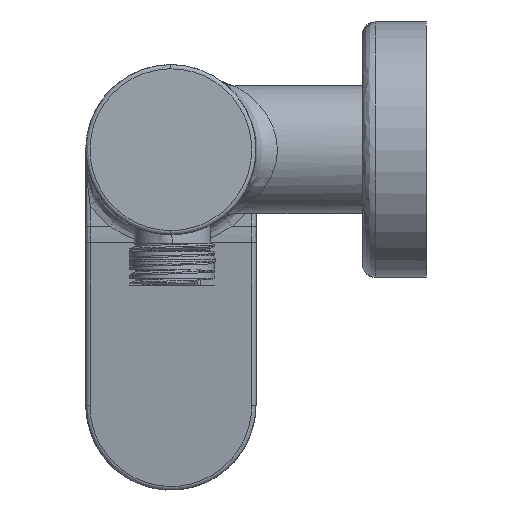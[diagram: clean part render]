
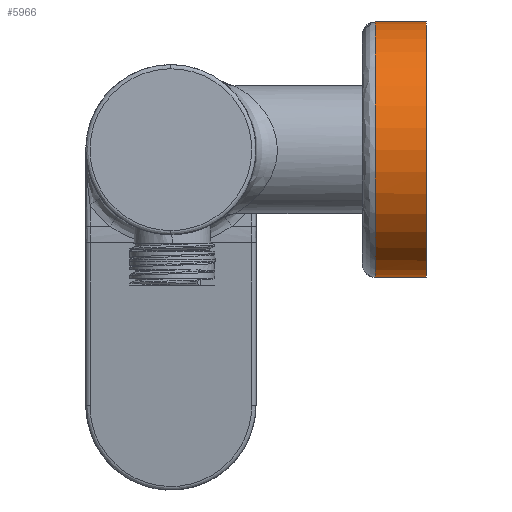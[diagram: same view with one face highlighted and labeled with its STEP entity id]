
A CAD part, left-side view. The second image highlights one B-rep face of the part: STEP entity #5966.
In plain terms, the highlighted cylindrical face has radius 30 mm (diameter 60 mm), a partial arc.
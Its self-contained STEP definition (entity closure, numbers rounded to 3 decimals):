
#318 = CARTESIAN_POINT ( 'NONE',  ( 0., -60., 117. ) ) ;
#610 = EDGE_LOOP ( 'NONE', ( #2068, #9667, #10281, #9111 ) ) ;
#785 = CARTESIAN_POINT ( 'NONE',  ( -7.778, -60., 176.04 ) ) ;
#865 = CARTESIAN_POINT ( 'NONE',  ( -9.666, -60., 175.468 ) ) ;
#1133 = CARTESIAN_POINT ( 'NONE',  ( 0., -48., 117. ) ) ;
#1922 = CARTESIAN_POINT ( 'NONE',  ( -15.035, -60., 120.965 ) ) ;
#2068 = ORIENTED_EDGE ( 'NONE', *, *, #4992, .F. ) ;
#2080 = CARTESIAN_POINT ( 'NONE',  ( -13.295, -60., 173.965 ) ) ;
#2235 = CARTESIAN_POINT ( 'NONE',  ( -19.825, -60., 124.398 ) ) ;
#2547 = DIRECTION ( 'NONE',  ( 0., -1., 0. ) ) ;
#3051 = DIRECTION ( 'NONE',  ( 0., 0., -1. ) ) ;
#3074 = CARTESIAN_POINT ( 'NONE',  ( 0., -60., 117. ) ) ;
#3153 = CARTESIAN_POINT ( 'NONE',  ( -28.468, -60., 156.666 ) ) ;
#3386 = CARTESIAN_POINT ( 'NONE',  ( -22.602, -60., 127.175 ) ) ;
#3597 = CARTESIAN_POINT ( 'NONE',  ( 0., -48., 177. ) ) ;
#3680 = VERTEX_POINT ( 'NONE', #3597 ) ;
#3683 = CARTESIAN_POINT ( 'NONE',  ( -7.778, -60., 117.96 ) ) ;
#3760 = DIRECTION ( 'NONE',  ( 0., -1., 0. ) ) ;
#3793 = VECTOR ( 'NONE', #5083, 1000. ) ;
#3856 = CARTESIAN_POINT ( 'NONE',  ( 0., -45., 177. ) ) ;
#3889 = EDGE_CURVE ( 'NONE', #10357, #9783, #6141, .T. ) ;
#4453 = CARTESIAN_POINT ( 'NONE',  ( -29.04, -60., 154.778 ) ) ;
#4855 = CIRCLE ( 'NONE', #8273, 30. ) ;
#4992 = EDGE_CURVE ( 'NONE', #3680, #10357, #4855, .T. ) ;
#5061 = DIRECTION ( 'NONE',  ( 0., 0., -1. ) ) ;
#5083 = DIRECTION ( 'NONE',  ( 0., -1., 0. ) ) ;
#5600 = CARTESIAN_POINT ( 'NONE',  ( -30., -60., 145.037 ) ) ;
#5674 = CARTESIAN_POINT ( 'NONE',  ( -29.04, -60., 139.222 ) ) ;
#5966 = ADVANCED_FACE ( 'NONE', ( #7634 ), #12307, .F. ) ;
#6120 = CARTESIAN_POINT ( 'NONE',  ( -1.963, -60., 117. ) ) ;
#6141 = LINE ( 'NONE', #9732, #13655 ) ;
#6482 = CARTESIAN_POINT ( 'NONE',  ( 0., -45., 147. ) ) ;
#6506 = EDGE_CURVE ( 'NONE', #9506, #9783, #13894, .T. ) ;
#6584 = AXIS2_PLACEMENT_3D ( 'NONE', #6482, #8864, #3051 ) ;
#6587 = CARTESIAN_POINT ( 'NONE',  ( -13.295, -60., 120.035 ) ) ;
#6742 = CARTESIAN_POINT ( 'NONE',  ( -30., -60., 148.963 ) ) ;
#6817 = CARTESIAN_POINT ( 'NONE',  ( -29.807, -60., 143.073 ) ) ;
#7634 = FACE_OUTER_BOUND ( 'NONE', #610, .T. ) ;
#7734 = CARTESIAN_POINT ( 'NONE',  ( -28.468, -60., 137.334 ) ) ;
#7969 = CARTESIAN_POINT ( 'NONE',  ( -3.927, -60., 176.807 ) ) ;
#8046 = CARTESIAN_POINT ( 'NONE',  ( -29.807, -60., 150.927 ) ) ;
#8273 = AXIS2_PLACEMENT_3D ( 'NONE', #11094, #3760, #5061 ) ;
#8864 = DIRECTION ( 'NONE',  ( 0., -1., 0. ) ) ;
#8950 = EDGE_CURVE ( 'NONE', #3680, #9506, #14336, .T. ) ;
#8962 = CARTESIAN_POINT ( 'NONE',  ( -19.825, -60., 169.602 ) ) ;
#9111 = ORIENTED_EDGE ( 'NONE', *, *, #3889, .F. ) ;
#9115 = CARTESIAN_POINT ( 'NONE',  ( 0., -60., 177. ) ) ;
#9506 = VERTEX_POINT ( 'NONE', #13325 ) ;
#9667 = ORIENTED_EDGE ( 'NONE', *, *, #8950, .T. ) ;
#9732 = CARTESIAN_POINT ( 'NONE',  ( 0., -45., 117. ) ) ;
#9783 = VERTEX_POINT ( 'NONE', #3074 ) ;
#10184 = CARTESIAN_POINT ( 'NONE',  ( -22.602, -60., 166.825 ) ) ;
#10281 = ORIENTED_EDGE ( 'NONE', *, *, #6506, .T. ) ;
#10338 = CARTESIAN_POINT ( 'NONE',  ( -26.965, -60., 133.705 ) ) ;
#10357 = VERTEX_POINT ( 'NONE', #1133 ) ;
#11094 = CARTESIAN_POINT ( 'NONE',  ( 0., -48., 147. ) ) ;
#11332 = CARTESIAN_POINT ( 'NONE',  ( -1.963, -60., 177. ) ) ;
#11935 = CARTESIAN_POINT ( 'NONE',  ( -9.666, -60., 118.532 ) ) ;
#12307 = CYLINDRICAL_SURFACE ( 'NONE', #6584, 30. ) ;
#12407 = CARTESIAN_POINT ( 'NONE',  ( -18.3, -60., 123.147 ) ) ;
#12709 = CARTESIAN_POINT ( 'NONE',  ( -23.853, -60., 165.3 ) ) ;
#13325 = CARTESIAN_POINT ( 'NONE',  ( 0., -60., 177. ) ) ;
#13552 = CARTESIAN_POINT ( 'NONE',  ( -15.035, -60., 173.035 ) ) ;
#13632 = CARTESIAN_POINT ( 'NONE',  ( -26.965, -60., 160.295 ) ) ;
#13655 = VECTOR ( 'NONE', #2547, 1000. ) ;
#13709 = CARTESIAN_POINT ( 'NONE',  ( -26.035, -60., 162.035 ) ) ;
#13858 = CARTESIAN_POINT ( 'NONE',  ( -23.853, -60., 128.7 ) ) ;
#13894 = B_SPLINE_CURVE_WITH_KNOTS ( 'NONE', 3,
 ( #9115, #11332, #7969, #785, #865, #2080, #13552, #14777, #8962, #10184, #12709, #13709, #13632, #3153, #4453, #8046, #6742, #5600, #6817, #5674, #7734, #10338, #15005, #13858, #3386, #2235, #12407, #1922, #6587, #11935, #3683, #14084, #6120, #318 ),
 .UNSPECIFIED., .F., .F.,
 ( 4, 2, 2, 2, 2, 2, 2, 2, 2, 2, 2, 2, 2, 2, 2, 2, 4 ),
 ( 0.25, 0.281, 0.313, 0.344, 0.375, 0.406, 0.438, 0.469, 0.5, 0.531, 0.563, 0.594, 0.625, 0.656, 0.688, 0.719, 0.75 ),
 .UNSPECIFIED. ) ;
#14084 = CARTESIAN_POINT ( 'NONE',  ( -3.927, -60., 117.193 ) ) ;
#14336 = LINE ( 'NONE', #3856, #3793 ) ;
#14777 = CARTESIAN_POINT ( 'NONE',  ( -18.3, -60., 170.853 ) ) ;
#15005 = CARTESIAN_POINT ( 'NONE',  ( -26.035, -60., 131.965 ) ) ;
